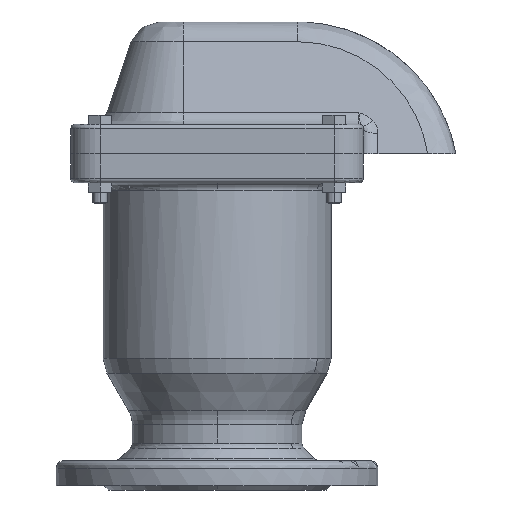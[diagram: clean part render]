
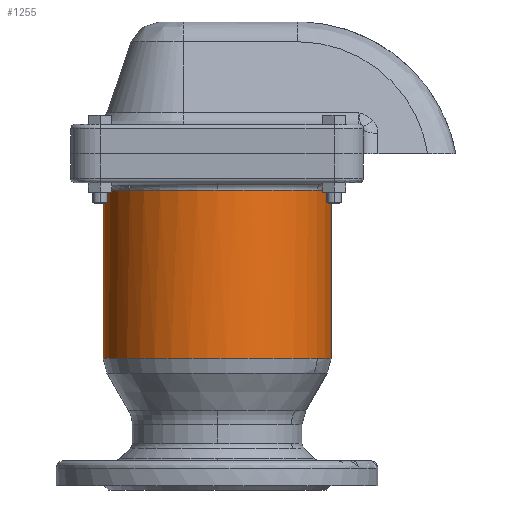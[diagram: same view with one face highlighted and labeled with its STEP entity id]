
A CAD part, left-side view. The second image highlights one B-rep face of the part: STEP entity #1255.
In plain terms, the highlighted cylindrical face has radius 78 mm (diameter 156 mm), a partial arc.
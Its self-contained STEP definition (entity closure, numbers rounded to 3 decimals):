
#110 = CIRCLE ( 'NONE', #12557, 78. ) ;
#348 = AXIS2_PLACEMENT_3D ( 'NONE', #5406, #13117, #6527 ) ;
#612 = DIRECTION ( 'NONE',  ( 0., -1., 0. ) ) ;
#764 = ORIENTED_EDGE ( 'NONE', *, *, #10705, .T. ) ;
#773 = CARTESIAN_POINT ( 'NONE',  ( 0., -78., 205. ) ) ;
#861 = DIRECTION ( 'NONE',  ( 0., 0., -1. ) ) ;
#916 = CIRCLE ( 'NONE', #13678, 78. ) ;
#1255 = ADVANCED_FACE ( 'NONE', ( #6157 ), #13926, .T. ) ;
#1426 = DIRECTION ( 'NONE',  ( 0., 0., 1. ) ) ;
#1828 = DIRECTION ( 'NONE',  ( 0., 1., 0. ) ) ;
#1890 = VERTEX_POINT ( 'NONE', #8808 ) ;
#2083 = VERTEX_POINT ( 'NONE', #12644 ) ;
#2309 = CIRCLE ( 'NONE', #348, 78. ) ;
#2700 = ORIENTED_EDGE ( 'NONE', *, *, #6416, .F. ) ;
#3476 = CARTESIAN_POINT ( 'NONE',  ( 0., 0., 90. ) ) ;
#3558 = ORIENTED_EDGE ( 'NONE', *, *, #6678, .F. ) ;
#4027 = EDGE_CURVE ( 'NONE', #1890, #8394, #110, .T. ) ;
#4330 = AXIS2_PLACEMENT_3D ( 'NONE', #12924, #6324, #14047 ) ;
#4497 = VERTEX_POINT ( 'NONE', #8231 ) ;
#4614 = DIRECTION ( 'NONE',  ( 1., 0., 0. ) ) ;
#4738 = CIRCLE ( 'NONE', #10725, 78. ) ;
#4827 = EDGE_CURVE ( 'NONE', #4927, #7340, #8914, .T. ) ;
#4927 = VERTEX_POINT ( 'NONE', #6417 ) ;
#5329 = EDGE_CURVE ( 'NONE', #6265, #1890, #4738, .T. ) ;
#5406 = CARTESIAN_POINT ( 'NONE',  ( 0., 0., 205. ) ) ;
#6157 = FACE_OUTER_BOUND ( 'NONE', #7353, .T. ) ;
#6265 = VERTEX_POINT ( 'NONE', #7329 ) ;
#6324 = DIRECTION ( 'NONE',  ( 0., 0., 1. ) ) ;
#6416 = EDGE_CURVE ( 'NONE', #7340, #2083, #2309, .T. ) ;
#6417 = CARTESIAN_POINT ( 'NONE',  ( -78., 0., 205. ) ) ;
#6425 = ORIENTED_EDGE ( 'NONE', *, *, #5329, .T. ) ;
#6527 = DIRECTION ( 'NONE',  ( -1., 0., 0. ) ) ;
#6678 = EDGE_CURVE ( 'NONE', #4497, #4927, #916, .T. ) ;
#7082 = ORIENTED_EDGE ( 'NONE', *, *, #4027, .T. ) ;
#7232 = DIRECTION ( 'NONE',  ( 0., 0., 1. ) ) ;
#7329 = CARTESIAN_POINT ( 'NONE',  ( 0., 78., 90. ) ) ;
#7340 = VERTEX_POINT ( 'NONE', #11738 ) ;
#7353 = EDGE_LOOP ( 'NONE', ( #12824, #2700, #8305, #3558, #764, #6425, #7082 ) ) ;
#7377 = LINE ( 'NONE', #7467, #13249 ) ;
#7396 = DIRECTION ( 'NONE',  ( 0., 0., -1. ) ) ;
#7467 = CARTESIAN_POINT ( 'NONE',  ( 0., 78., 205. ) ) ;
#7829 = VECTOR ( 'NONE', #7396, 1000. ) ;
#8047 = CARTESIAN_POINT ( 'NONE',  ( 0., 0., 205. ) ) ;
#8172 = LINE ( 'NONE', #773, #7829 ) ;
#8231 = CARTESIAN_POINT ( 'NONE',  ( 0., 78., 205. ) ) ;
#8305 = ORIENTED_EDGE ( 'NONE', *, *, #4827, .F. ) ;
#8394 = VERTEX_POINT ( 'NONE', #10541 ) ;
#8808 = CARTESIAN_POINT ( 'NONE',  ( -37.395, -68.451, 90. ) ) ;
#8914 = CIRCLE ( 'NONE', #4330, 78. ) ;
#9171 = DIRECTION ( 'NONE',  ( -1., 0., 0. ) ) ;
#9565 = DIRECTION ( 'NONE',  ( 0., 0., -1. ) ) ;
#10541 = CARTESIAN_POINT ( 'NONE',  ( 0., -78., 90. ) ) ;
#10685 = CARTESIAN_POINT ( 'NONE',  ( 0., 0., 205. ) ) ;
#10705 = EDGE_CURVE ( 'NONE', #4497, #6265, #7377, .T. ) ;
#10725 = AXIS2_PLACEMENT_3D ( 'NONE', #13847, #7232, #612 ) ;
#11234 = DIRECTION ( 'NONE',  ( 0., 0., 1. ) ) ;
#11738 = CARTESIAN_POINT ( 'NONE',  ( -37.395, -68.451, 205. ) ) ;
#12341 = AXIS2_PLACEMENT_3D ( 'NONE', #10685, #9565, #1828 ) ;
#12557 = AXIS2_PLACEMENT_3D ( 'NONE', #3476, #11234, #4614 ) ;
#12644 = CARTESIAN_POINT ( 'NONE',  ( 0., -78., 205. ) ) ;
#12824 = ORIENTED_EDGE ( 'NONE', *, *, #13820, .F. ) ;
#12924 = CARTESIAN_POINT ( 'NONE',  ( 0., 0., 205. ) ) ;
#13117 = DIRECTION ( 'NONE',  ( 0., 0., 1. ) ) ;
#13249 = VECTOR ( 'NONE', #861, 1000. ) ;
#13678 = AXIS2_PLACEMENT_3D ( 'NONE', #8047, #1426, #9171 ) ;
#13820 = EDGE_CURVE ( 'NONE', #2083, #8394, #8172, .T. ) ;
#13847 = CARTESIAN_POINT ( 'NONE',  ( 0., 0., 90. ) ) ;
#13926 = CYLINDRICAL_SURFACE ( 'NONE', #12341, 78. ) ;
#14047 = DIRECTION ( 'NONE',  ( -1., 0., 0. ) ) ;
